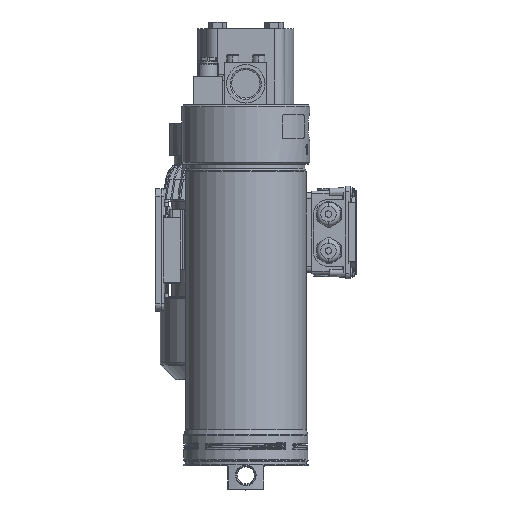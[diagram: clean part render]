
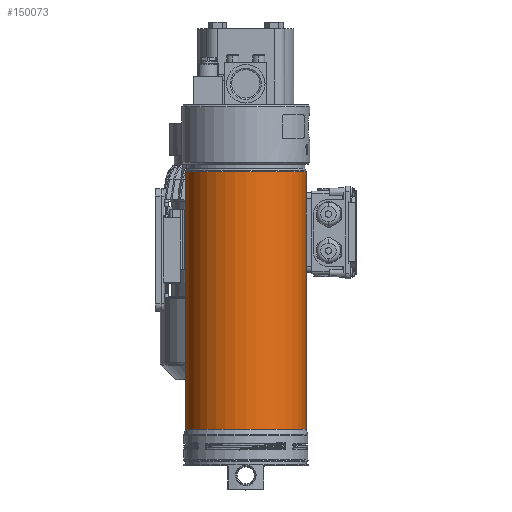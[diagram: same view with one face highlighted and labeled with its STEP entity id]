
A CAD part, left-side view. The second image highlights one B-rep face of the part: STEP entity #150073.
In plain terms, the highlighted cylindrical face has radius 64 mm (diameter 128 mm), a partial arc.
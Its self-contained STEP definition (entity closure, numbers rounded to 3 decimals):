
#60827=CARTESIAN_POINT('',(-3.73,-6.95,
-62.386));
#60828=DIRECTION('',(0.,0.,-1.));
#60829=DIRECTION('',(0.,-1.,0.));
#60830=AXIS2_PLACEMENT_3D('',#60827,#60828,#60829);
#60866=DIRECTION('',(0.,0.,-1.));
#60867=VECTOR('',#60866,273.145);
#60868=CARTESIAN_POINT('',(-3.729,57.05,
-62.386));
#60869=LINE('',#60868,#60867);
#60873=DIRECTION('',(0.,0.,-1.));
#60874=VECTOR('',#60873,273.145);
#60875=CARTESIAN_POINT('',(-3.73,-70.95,
-62.386));
#60876=LINE('',#60875,#60874);
#60880=CARTESIAN_POINT('',(-3.73,-6.95,
-335.53));
#60881=DIRECTION('',(0.,0.,1.));
#60882=DIRECTION('',(0.,1.,0.));
#60883=AXIS2_PLACEMENT_3D('',#60880,#60881,#60882);
#82905=CARTESIAN_POINT('',(-3.73,-70.95,
-62.386));
#82906=VERTEX_POINT('',#82905);
#82907=CARTESIAN_POINT('',(-3.73,57.05,
-62.386));
#82908=VERTEX_POINT('',#82907);
#82909=CARTESIAN_POINT('',(-3.73,57.05,
-335.53));
#82910=VERTEX_POINT('',#82909);
#82911=CARTESIAN_POINT('',(-3.73,-70.95,
-335.53));
#82912=VERTEX_POINT('',#82911);
#150061=CARTESIAN_POINT('',(-3.73,-6.95,
-198.581));
#150062=DIRECTION('',(0.,0.,1.));
#150063=DIRECTION('',(0.,-1.,0.));
#150064=AXIS2_PLACEMENT_3D('',#150061,#150062,#150063);
#150065=CYLINDRICAL_SURFACE('',#150064,64.);
#150066=ORIENTED_EDGE('',*,*,#149985,.F.);
#150067=ORIENTED_EDGE('',*,*,#150049,.T.);
#150069=ORIENTED_EDGE('',*,*,#150068,.F.);
#150070=ORIENTED_EDGE('',*,*,#150045,.F.);
#150071=EDGE_LOOP('',(#150066,#150067,#150069,#150070));
#150072=FACE_OUTER_BOUND('',#150071,.F.);
#60831=CIRCLE('',#60830,64.);
#60884=CIRCLE('',#60883,64.);
#149985=EDGE_CURVE('',#82906,#82908,#60831,.T.);
#150045=EDGE_CURVE('',#82908,#82910,#60869,.T.);
#150049=EDGE_CURVE('',#82906,#82912,#60876,.T.);
#150068=EDGE_CURVE('',#82910,#82912,#60884,.T.);
#150073=ADVANCED_FACE('',(#150072),#150065,.T.);
